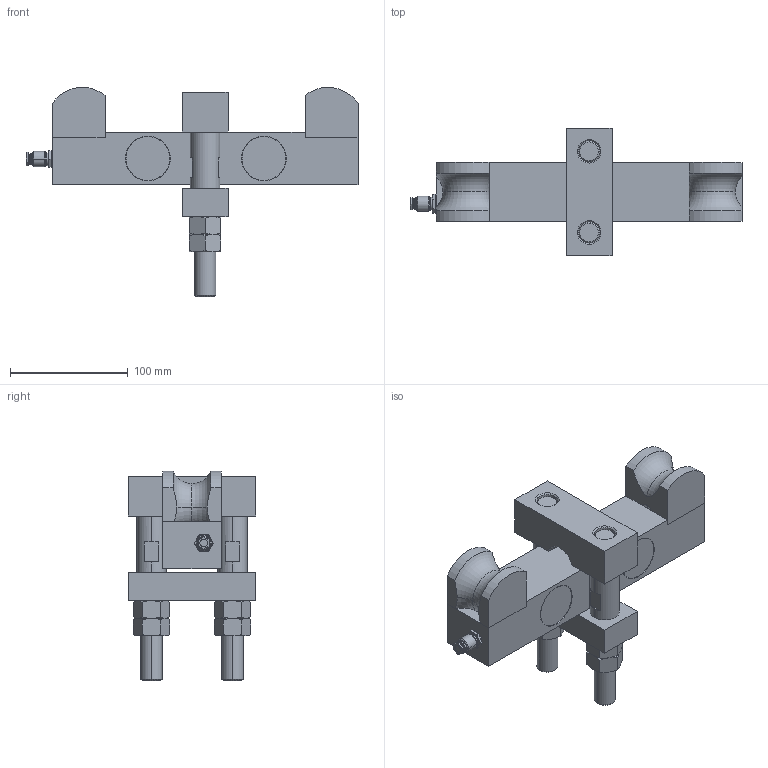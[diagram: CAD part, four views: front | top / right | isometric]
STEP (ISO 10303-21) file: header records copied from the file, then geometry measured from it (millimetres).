
FILE_DESCRIPTION((''),'1');
FILE_NAME('LULA_20000-40000_kg.step','2018-01-22T13:11:40',(''),(''),'','','');
FILE_SCHEMA(('AUTOMOTIVE_DESIGN { 1 0 10303 214 1 1 1 1 }'));
Products named in the file (11): LULA body 01; LULA body 02; LULA screw 01; LULA part 02; LULA 20000-40000_kg; LULA part 03; LULA plate 01; LULA screw 02; LULA plate 03; LULA nut 01; LULA cable gland 01
Assembly tree (18 placements, depth 3):
  LULA 20000-40000_kg
    LULA body 01
      LULA body 02
      LULA screw 01  x2
      LULA part 02  x4
    LULA part 03
      LULA plate 01
      LULA screw 02  x2
      LULA plate 03
      LULA nut 01  x4
    LULA cable gland 01
Bounding box: 282.3 x 108 x 178 mm (x, y, z)
Volume: 1045348.7 mm3; surface area: 167152.5 mm2
Topology: 18 solids, 18 shells, 447 faces, 980 edges, 592 vertices
Faces by surface type: plane 166, cone 142, cylinder 100, torus 38, bspline 1
Entity records: 11643 total; most frequent: CARTESIAN_POINT 2906, DIRECTION 1392, ORIENTED_EDGE 1214, EDGE_CURVE 607, AXIS2_PLACEMENT_3D 551, VERTEX_POINT 372, EDGE_LOOP 307, LINE 290
